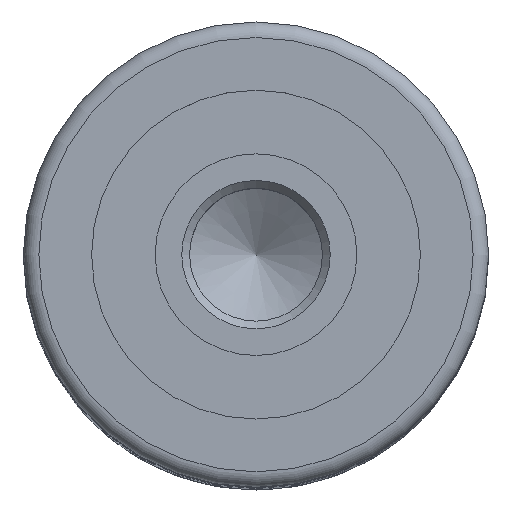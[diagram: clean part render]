
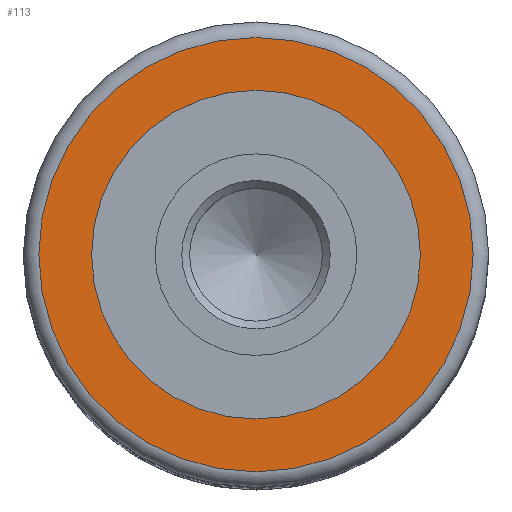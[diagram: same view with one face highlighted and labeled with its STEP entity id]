
A CAD part, top view. The second image highlights one B-rep face of the part: STEP entity #113.
In plain terms, the highlighted planar face has unit normal (0, 0, 1).
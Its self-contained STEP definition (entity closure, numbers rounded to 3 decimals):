
#113=ADVANCED_FACE('',(#200,#201),#202,.T.);
#200=FACE_BOUND('',#309,.T.);
#201=FACE_OUTER_BOUND('',#310,.T.);
#202=PLANE('',#311);
#309=EDGE_LOOP('',(#420));
#310=EDGE_LOOP('',(#421));
#311=AXIS2_PLACEMENT_3D('',#422,#423,#424);
#420=ORIENTED_EDGE('',*,*,#559,.F.);
#421=ORIENTED_EDGE('',*,*,#560,.T.);
#422=CARTESIAN_POINT('',(0.0,0.0,50.0));
#423=DIRECTION('',(0.0,0.0,1.0));
#424=DIRECTION('',(1.0,0.0,0.0));
#559=EDGE_CURVE('',#616,#616,#617,.T.);
#560=EDGE_CURVE('',#618,#618,#619,.T.);
#616=VERTEX_POINT('',#692);
#617=CIRCLE('',#693,10.6);
#618=VERTEX_POINT('',#694);
#619=CIRCLE('',#695,14.0);
#692=CARTESIAN_POINT('',(10.6,0.0,50.0));
#693=AXIS2_PLACEMENT_3D('',#975,#976,#977);
#694=CARTESIAN_POINT('',(14.0,0.0,50.0));
#695=AXIS2_PLACEMENT_3D('',#978,#979,#980);
#975=CARTESIAN_POINT('',(0.0,0.0,50.0));
#976=DIRECTION('',(0.0,0.0,1.0));
#977=DIRECTION('',(1.0,0.0,0.0));
#978=CARTESIAN_POINT('',(0.0,0.0,50.0));
#979=DIRECTION('',(0.0,0.0,1.0));
#980=DIRECTION('',(1.0,0.0,0.0));
